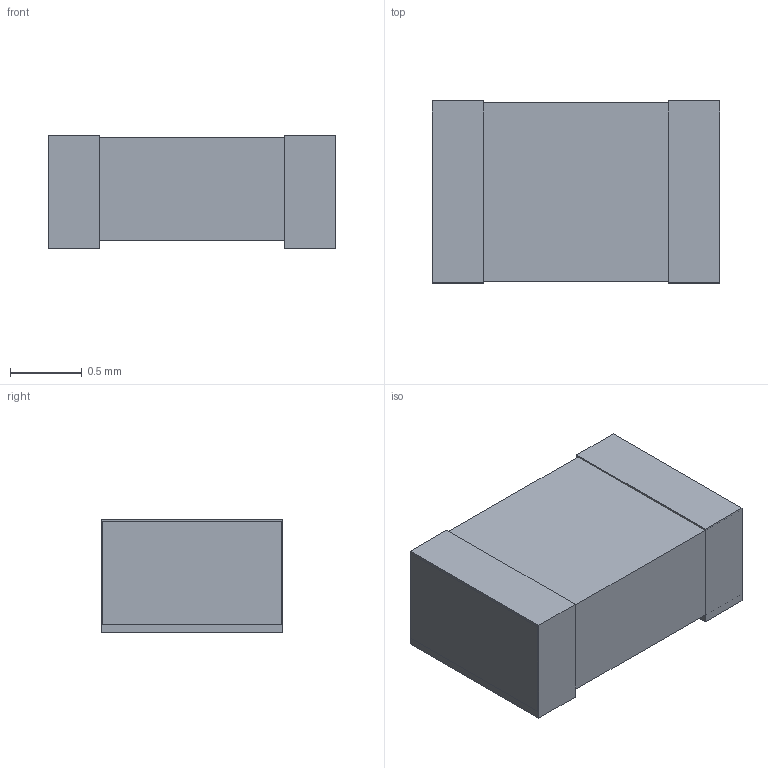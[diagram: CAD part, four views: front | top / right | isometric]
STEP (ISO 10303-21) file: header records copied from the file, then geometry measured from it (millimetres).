
FILE_DESCRIPTION(('FreeCAD Model'),'2;1');
FILE_NAME('Open CASCADE Shape Model','2026-09-23T12:07:02',('FreeCAD'),( 'FreeCAD'),'Open CASCADE STEP processor 7.8','FreeCAD','Unknown');
FILE_SCHEMA(('AUTOMOTIVE_DESIGN { 1 0 10303 214 1 1 1 1 }'));
Length unit declared in the file: millimetre
Products named in the file (1): Open CASCADE STEP translator 7.8 26
Bounding box: 2 x 1.26 x 0.79 mm (x, y, z)
Surface area: 16.6 mm2
Topology: 3 solids, 3 shells, 18 faces, 36 edges, 24 vertices
Faces by surface type: plane 18
Entity records: 466 total; most frequent: CARTESIAN_POINT 79, DIRECTION 74, ORIENTED_EDGE 72, EDGE_CURVE 36, LINE 36, VECTOR 36, VERTEX_POINT 24, AXIS2_PLACEMENT_3D 19
